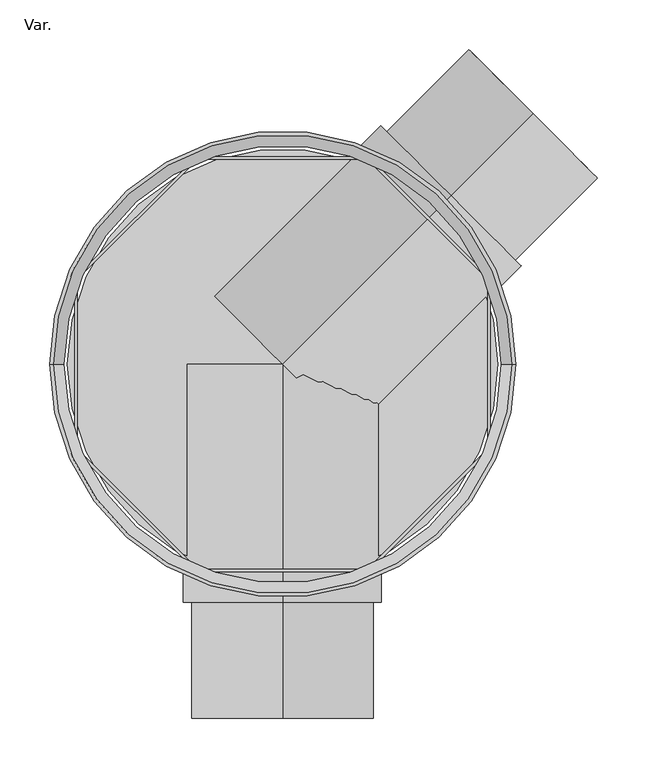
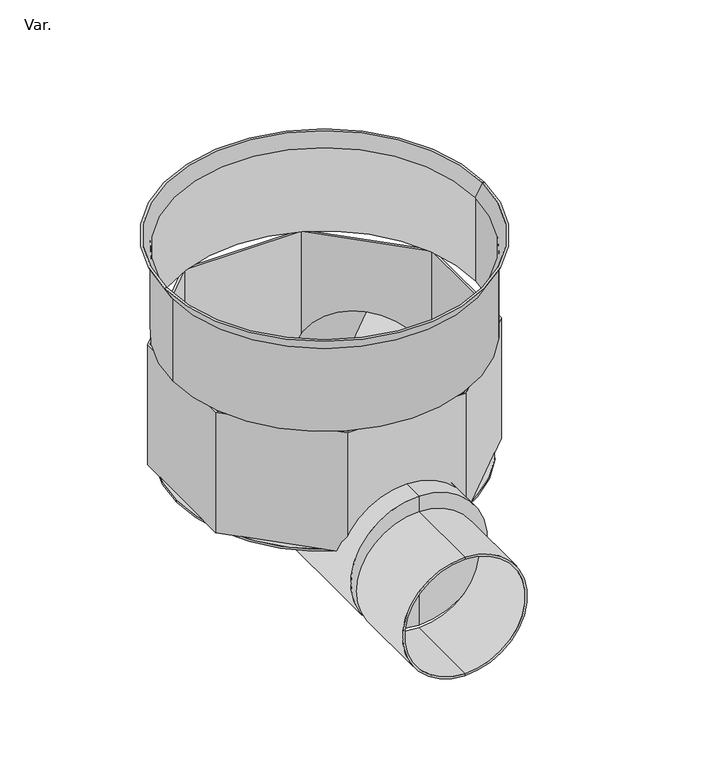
"""IFC4 building model written with IfcOpenShell, lengths in millimetres: pipe fitting geometry, PlastigamaWavin_Unionesdetubería_NovafortCajasAcera175mm : Var.."""

from ifc_helpers import new_model, si_unit, point, frame, origin, origin_with_axes, origin_2d, place, context, project, spatial, polyline, circle_curve, trimmed, segment, composite_curve, outline, extrude, source, transform, mapped, element, save
from ifc_brep_helpers import plane_surface, cylinder_surface, revolved_surface, advanced_brep


def var_c8cfa985(model_context):
    return source(origin(), model_context, "Body", "SolidModel", [
        advanced_brep(
        [(-231.6019238, 0.0, 148.8205081), (231.6019238, 0.0, 148.8205081), (235.0660254, 0.0, 148.8205081), (-235.0660254, 0.0, 148.8205081), (-220.7358984, 0.0, 130.0), (220.7358984, 0.0, 130.0), (-224.2, 0.0, 130.0), (224.2, 0.0, 130.0)],
        [
            (0, 1, circle_curve(frame((0.0, 0.0, 148.8205081), z_axis=(0.0, 0.0, -1.0), x_axis=(1.0, 0.0, 0.0)), 231.6019238)),
            (1, 2),
            (2, 3, circle_curve(frame((0.0, 0.0, 148.8205081), z_axis=(0.0, 0.0, 1.0), x_axis=(1.0, 0.0, 0.0)), 235.0660254)),
            (3, 0),
            (1, 0, circle_curve(frame((0.0, 0.0, 148.8205081), z_axis=(0.0, 0.0, -1.0), x_axis=(1.0, 0.0, 0.0)), 231.6019238)),
            (3, 2, circle_curve(frame((0.0, 0.0, 148.8205081), z_axis=(0.0, 0.0, 1.0), x_axis=(1.0, 0.0, 0.0)), 235.0660254)),
            (4, 5, circle_curve(frame((0.0, 0.0, 130.0), z_axis=(0.0, 0.0, -1.0), x_axis=(1.0, 0.0, 0.0)), 220.7358984)),
            (5, 1),
            (0, 4),
            (5, 4, circle_curve(frame((0.0, 0.0, 130.0), z_axis=(0.0, 0.0, -1.0), x_axis=(1.0, 0.0, 0.0)), 220.7358984)),
            (6, 7, circle_curve(frame((0.0, 0.0, 130.0), z_axis=(0.0, 0.0, -1.0), x_axis=(1.0, 0.0, 0.0)), 224.2)),
            (7, 5),
            (4, 6),
            (7, 6, circle_curve(frame((0.0, 0.0, 130.0), z_axis=(0.0, 0.0, -1.0), x_axis=(1.0, 0.0, 0.0)), 224.2)),
            (2, 7),
            (6, 3),
        ],
        [
            plane_surface(frame((0.0, 0.0, 148.8205081), z_axis=(0.0, 0.0, 1.0), x_axis=(1.0, 0.0, 0.0))),
            revolved_surface(polyline([(231.6019238, 0.0, 148.8205081), (220.7358984, 0.0, 130.0)]), (0.0, 0.0, 2214.3150031), (0.0, 0.0, 1.0)),
            plane_surface(frame((0.0, 0.0, 130.0), z_axis=(0.0, 0.0, -1.0), x_axis=(1.0, 0.0, 0.0))),
            revolved_surface(polyline([(224.2, 0.0, 130.0), (235.0660254, 0.0, 148.8205081)]), (0.0, 0.0, 2214.3150031), (0.0, 0.0, 1.0)),
        ],
        [
            (0, [[1, 2, 3, 4]]),
            (0, [[5, -4, 6, -2]]),
            (1, [[7, 8, -1, 9]]),
            (1, [[10, -9, -5, -8]]),
            (2, [[11, 12, -7, 13]]),
            (2, [[14, -13, -10, -12]]),
            (3, [[-3, 15, -11, 16]]),
            (3, [[-6, -16, -14, -15]]),
        ],
    ),
        advanced_brep(
        [(169.8470488, 169.8470488, -314.25), (169.8470488, 169.8470488, -137.15), (252.5785422, 252.5785422, -137.15), (252.5785422, 252.5785422, -314.25), (169.8470488, 169.8470488, -317.25), (169.8470488, 169.8470488, -134.15), (252.5785422, 252.5785422, -317.25), (252.5785422, 252.5785422, -134.15)],
        [
            (0, 1, circle_curve(frame((169.8470488, 169.8470488, -225.7), z_axis=(-0.707106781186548, -0.707106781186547, 0.0), x_axis=(0.0, 0.0, 1.0)), 88.55)),
            (1, 2),
            (2, 3, circle_curve(frame((252.5785422, 252.5785422, -225.7), z_axis=(0.707106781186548, 0.707106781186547, 0.0), x_axis=(0.0, 0.0, 1.0)), 88.55)),
            (3, 0),
            (1, 0, circle_curve(frame((169.8470488, 169.8470488, -225.7), z_axis=(-0.707106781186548, -0.707106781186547, 0.0), x_axis=(0.0, 0.0, 1.0)), 88.55)),
            (3, 2, circle_curve(frame((252.5785422, 252.5785422, -225.7), z_axis=(0.707106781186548, 0.707106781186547, 0.0), x_axis=(0.0, 0.0, 1.0)), 88.55)),
            (4, 5, circle_curve(frame((169.8470488, 169.8470488, -225.7), z_axis=(-0.707106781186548, -0.707106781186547, 0.0), x_axis=(0.0, 0.0, 1.0)), 91.55)),
            (5, 1),
            (0, 4),
            (5, 4, circle_curve(frame((169.8470488, 169.8470488, -225.7), z_axis=(-0.707106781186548, -0.707106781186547, 0.0), x_axis=(0.0, 0.0, 1.0)), 91.55)),
            (6, 7, circle_curve(frame((252.5785422, 252.5785422, -225.7), z_axis=(-0.707106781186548, -0.707106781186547, 0.0), x_axis=(0.0, 0.0, 1.0)), 91.55)),
            (7, 5),
            (4, 6),
            (7, 6, circle_curve(frame((252.5785422, 252.5785422, -225.7), z_axis=(-0.707106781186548, -0.707106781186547, 0.0), x_axis=(0.0, 0.0, 1.0)), 91.55)),
            (2, 7),
            (6, 3),
        ],
        [
            revolved_surface(polyline([(252.57854220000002, 252.57854219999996, -137.14999999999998), (169.84704879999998, 169.84704880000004, -137.14999999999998)]), (191.123649, 191.123649, -225.7), (0.707106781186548, 0.707106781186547, 0.0)),
            plane_surface(frame((169.8470488, 169.8470488, -225.7), z_axis=(-0.7071067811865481, -0.707106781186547, 0.0), x_axis=(0.0, 0.0, 1.0))),
            cylinder_surface(frame((191.123649, 191.123649, -225.7), z_axis=(0.707106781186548, 0.707106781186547, 0.0), x_axis=(0.0, 0.0, 1.0)), 91.55),
            plane_surface(frame((252.5785422, 252.5785422, -225.7), z_axis=(0.7071067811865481, 0.707106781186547, 0.0), x_axis=(0.0, 0.0, 1.0))),
        ],
        [
            (0, [[1, 2, 3, 4]]),
            (0, [[5, -4, 6, -2]]),
            (1, [[7, 8, -1, 9]]),
            (1, [[10, -9, -5, -8]]),
            (2, [[11, 12, -7, 13]]),
            (2, [[14, -13, -10, -12]]),
            (3, [[-3, 15, -11, 16]]),
            (3, [[-6, -16, -14, -15]]),
        ],
    ),
        advanced_brep(
        [(169.8470488, 169.8470488, -209.99), (169.8470488, 169.8470488, -109.99), (169.8470488, 169.8470488, -309.99), (0.0, 0.0, -309.99), (0.0, 0.0, -109.99), (0.0, 0.0, -209.99)],
        [
            (0, 1),
            (1, 2, circle_curve(frame((169.8470488, 169.8470488, -209.99), z_axis=(0.7071067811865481, 0.7071067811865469, 0.0), x_axis=(0.0, 0.0, 1.0)), 100.0)),
            (2, 0),
            (2, 1, circle_curve(frame((169.8470488, 169.8470488, -209.99), z_axis=(0.7071067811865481, 0.7071067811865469, 0.0), x_axis=(0.0, 0.0, 1.0)), 100.0)),
            (3, 4, circle_curve(frame((0.0, 0.0, -209.99), z_axis=(-0.7071067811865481, -0.7071067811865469, 0.0), x_axis=(0.0, 0.0, 1.0)), 100.0)),
            (4, 5),
            (5, 3),
            (4, 3, circle_curve(frame((0.0, 0.0, -209.99), z_axis=(-0.7071067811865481, -0.7071067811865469, 0.0), x_axis=(0.0, 0.0, 1.0)), 100.0)),
            (1, 4),
            (3, 2),
        ],
        [
            plane_surface(frame((169.8470488, 169.8470488, -209.99), z_axis=(0.7071067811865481, 0.707106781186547, 0.0), x_axis=(0.0, 0.0, 1.0))),
            plane_surface(frame((0.0, 0.0, -209.99), z_axis=(-0.7071067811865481, -0.707106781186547, 0.0), x_axis=(0.0, 0.0, 1.0))),
            cylinder_surface(frame((169.8470488, 169.8470488, -209.99), z_axis=(0.7071067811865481, 0.7071067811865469, 0.0), x_axis=(0.0, 0.0, 1.0)), 100.0),
        ],
        [
            (0, [[1, 2, 3]]),
            (0, [[-3, 4, -1]]),
            (1, [[5, 6, 7]]),
            (1, [[8, -7, -6]]),
            (2, [[-2, 9, -5, 10]]),
            (2, [[-4, -10, -8, -9]]),
        ],
    ),
        extrude(outline(composite_curve([segment(trimmed(circle_curve(origin_2d(), 217.0), [point((-217.0, 0.0))], [point((217.0, 0.0))], False, "CARTESIAN"), True, "CONTINUOUS"), segment(trimmed(circle_curve(origin_2d(), 217.0), [point((217.0, 0.0))], [point((-217.0, 0.0))], False, "CARTESIAN"), True, "CONTINUOUS")], self_intersect=False)), frame((0.0, 0.0, -189.41), z_axis=(0.0, 0.0, 1.0), x_axis=(1.0, 0.0, 0.0)), (0.0, 0.0, 1.0), 3.0),
        advanced_brep(
        [(0.0, -357.2, -314.25), (0.0, -357.2, -137.15), (0.0, -357.2, -134.15), (0.0, -357.2, -317.25), (0.0, -240.2, -317.25), (0.0, -240.2, -134.15), (0.0, -240.2, -137.15), (0.0, -240.2, -314.25)],
        [
            (0, 1, circle_curve(frame((0.0, -357.2, -225.7), z_axis=(0.0, 1.0, 0.0), x_axis=(0.0, 0.0, 1.0)), 88.55)),
            (1, 2),
            (2, 3, circle_curve(frame((0.0, -357.2, -225.7), z_axis=(0.0, -1.0, 0.0), x_axis=(0.0, 0.0, 1.0)), 91.55)),
            (3, 0),
            (1, 0, circle_curve(frame((0.0, -357.2, -225.7), z_axis=(0.0, 1.0, 0.0), x_axis=(0.0, 0.0, 1.0)), 88.55)),
            (3, 2, circle_curve(frame((0.0, -357.2, -225.7), z_axis=(0.0, -1.0, 0.0), x_axis=(0.0, 0.0, 1.0)), 91.55)),
            (4, 5, circle_curve(frame((0.0, -240.2, -225.7), z_axis=(0.0, 1.0, 0.0), x_axis=(0.0, 0.0, 1.0)), 91.55)),
            (5, 6),
            (6, 7, circle_curve(frame((0.0, -240.2, -225.7), z_axis=(0.0, -1.0, 0.0), x_axis=(0.0, 0.0, 1.0)), 88.55)),
            (7, 4),
            (5, 4, circle_curve(frame((0.0, -240.2, -225.7), z_axis=(0.0, 1.0, 0.0), x_axis=(0.0, 0.0, 1.0)), 91.55)),
            (7, 6, circle_curve(frame((0.0, -240.2, -225.7), z_axis=(0.0, -1.0, 0.0), x_axis=(0.0, 0.0, 1.0)), 88.55)),
            (2, 5),
            (4, 3),
            (6, 1),
            (0, 7),
        ],
        [
            plane_surface(frame((0.0, -357.2, -225.7), z_axis=(0.0, -1.0, 0.0), x_axis=(0.0, 0.0, 1.0))),
            plane_surface(frame((0.0, -240.2, -225.7), z_axis=(0.0, 1.0, 0.0), x_axis=(0.0, 0.0, 1.0))),
            cylinder_surface(frame((0.0, -249.0327013, -225.7), z_axis=(0.0, -1.0, 0.0), x_axis=(0.0, 0.0, 1.0)), 91.55),
            revolved_surface(polyline([(0.0, -357.2, -137.14999999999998), (0.0, -240.2, -137.14999999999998)]), (0.0, -249.0327013, -225.7), (0.0, -1.0, 0.0)),
        ],
        [
            (0, [[1, 2, 3, 4]]),
            (0, [[5, -4, 6, -2]]),
            (1, [[7, 8, 9, 10]]),
            (1, [[11, -10, 12, -8]]),
            (2, [[-3, 13, -7, 14]]),
            (2, [[-6, -14, -11, -13]]),
            (3, [[-9, 15, -1, 16]]),
            (3, [[-12, -16, -5, -15]]),
        ],
    ),
        advanced_brep(
        [(0.0, -240.2, -209.99), (0.0, -240.2, -109.99), (0.0, -240.2, -309.99), (0.0, 0.0, -309.99), (0.0, 0.0, -109.99), (0.0, 0.0, -209.99)],
        [
            (0, 1),
            (1, 2, circle_curve(frame((0.0, -240.2, -209.99), z_axis=(0.0, -1.0, 0.0), x_axis=(0.0, 0.0, 1.0)), 100.0)),
            (2, 0),
            (2, 1, circle_curve(frame((0.0, -240.2, -209.99), z_axis=(0.0, -1.0, 0.0), x_axis=(0.0, 0.0, 1.0)), 100.0)),
            (3, 4, circle_curve(frame((0.0, 0.0, -209.99), z_axis=(0.0, 1.0, 0.0), x_axis=(0.0, 0.0, 1.0)), 100.0)),
            (4, 5),
            (5, 3),
            (4, 3, circle_curve(frame((0.0, 0.0, -209.99), z_axis=(0.0, 1.0, 0.0), x_axis=(0.0, 0.0, 1.0)), 100.0)),
            (1, 4),
            (3, 2),
        ],
        [
            plane_surface(frame((0.0, -240.2, -209.99), z_axis=(0.0, -1.0, 0.0), x_axis=(0.0, 0.0, 1.0))),
            plane_surface(frame((0.0, 0.0, -209.99), z_axis=(0.0, 1.0, 0.0), x_axis=(0.0, 0.0, 1.0))),
            cylinder_surface(frame((0.0, 0.0, -209.99), z_axis=(0.0, -1.0, 0.0), x_axis=(0.0, 0.0, 1.0)), 100.0),
        ],
        [
            (0, [[1, 2, 3]]),
            (0, [[-3, 4, -1]]),
            (1, [[5, 6, 7]]),
            (1, [[8, -7, -6]]),
            (2, [[-2, 9, -5, 10]]),
            (2, [[-4, -10, -8, -9]]),
        ],
    ),
        extrude(outline(composite_curve([segment(trimmed(circle_curve(origin_2d(), 222.2), [point((-222.2, 0.0))], [point((222.2, 0.0))], False, "CARTESIAN"), True, "CONTINUOUS"), segment(trimmed(circle_curve(origin_2d(), 222.2), [point((222.2, 0.0))], [point((-222.2, 0.0))], False, "CARTESIAN"), True, "CONTINUOUS")], self_intersect=False), holes=[composite_curve([segment(trimmed(circle_curve(origin_2d(), 222.0), [point((-222.0, 0.0))], [point((222.0, 0.0))], True, "CARTESIAN"), True, "CONTINUOUS"), segment(trimmed(circle_curve(origin_2d(), 222.0), [point((222.0, 0.0))], [point((-222.0, 0.0))], True, "CARTESIAN"), True, "CONTINUOUS")], self_intersect=False)]), origin_with_axes(), (0.0, 0.0, 1.0), 130.0),
        extrude(outline(polyline([(-209.44, 86.7528885), (-86.7528885, 209.44), (86.7528885, 209.44), (209.44, 86.7528885), (209.44, -86.7528885), (86.7528885, -209.44), (-86.7528885, -209.44), (-209.44, -86.7528885), (-209.44, 86.7528885)]), holes=[polyline([(206.44, 85.5102478), (85.5102478, 206.44), (-85.5102478, 206.44), (-206.44, 85.5102478), (-206.44, -85.5102478), (-85.5102478, -206.44), (85.5102478, -206.44), (206.44, -85.5102478), (206.44, 85.5102478)])]), frame((0.0, 0.0, -186.41), z_axis=(0.0, 0.0, 1.0), x_axis=(1.0, 0.0, 0.0)), (0.0, 0.0, 1.0), 186.41),
    ])


if __name__ == "__main__":
    model = new_model("IFC4")
    model_context = context("Model", 3, world=origin())
    ifc_project = project(units=[si_unit("LENGTHUNIT", "METRE", prefix="MILLI")], contexts=[model_context])
    site = spatial("IfcSite", under=ifc_project)
    building = spatial("IfcBuilding", under=site)
    placement = place(None, origin())
    var_shape = var_c8cfa985(model_context)
    element("IfcPipeFitting", 1, ObjectType="PlastigamaWavin_Unionesdetubería_NovafortCajasAcera175mm : Var.", at=placement, inside=building, context=model_context, shape_type="MappedRepresentation", body=[
        mapped(var_shape, transform((0.0, 0.0, 0.0), x_axis=(1.0, 0.0, 0.0), y_axis=(0.0, 1.0, 0.0), z_axis=(0.0, 0.0, 1.0))),
    ])
    save(model, "model.ifc")
